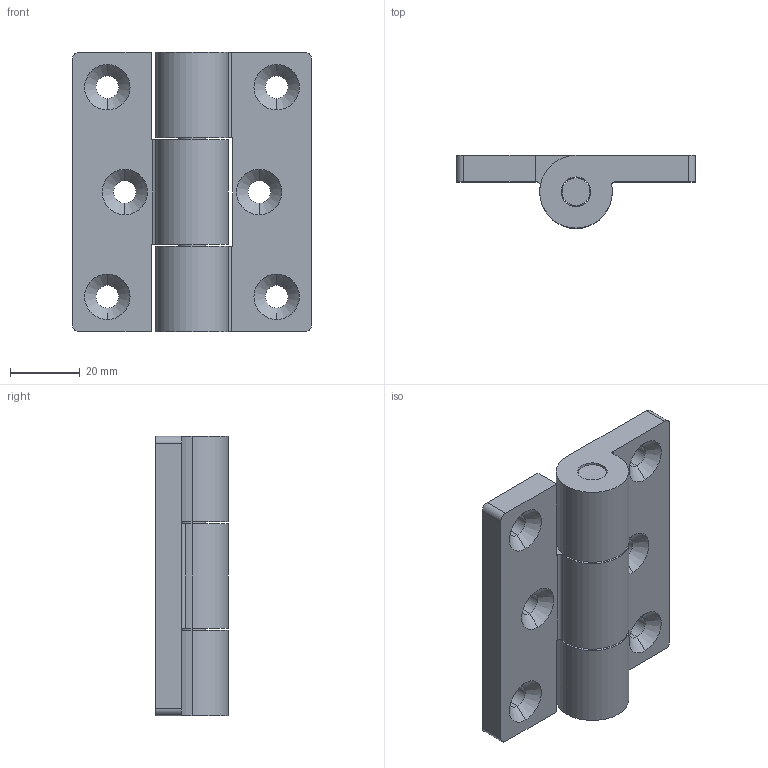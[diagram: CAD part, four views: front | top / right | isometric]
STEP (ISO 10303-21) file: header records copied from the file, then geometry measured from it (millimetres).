
FILE_DESCRIPTION (( 'STEP AP203' ), '1' );
FILE_NAME ('XG02-042-1.STEP', '2023-12-07T08:51:25', ( '' ), ( '' ), 'SwSTEP 2.0', 'SolidWorks 2020', '' );
FILE_SCHEMA (( 'CONFIG_CONTROL_DESIGN' ));
Length unit declared in the file: millimetre
Products named in the file (4): HL022; HL022 - a; XG02-042-1; HL022 - C
Assembly tree (3 placements, depth 2):
  XG02-042-1
    HL022
    HL022 - a
    HL022 - C
Bounding box: 68.5 x 20.8 x 80 mm (x, y, z)
Volume: 53640.2 mm3; surface area: 21243.2 mm2
Topology: 3 solids, 3 shells, 70 faces, 180 edges, 116 vertices
Faces by surface type: cylinder 39, plane 19, cone 12
Entity records: 2608 total; most frequent: DIRECTION 422, CARTESIAN_POINT 372, ORIENTED_EDGE 360, EDGE_CURVE 180, AXIS2_PLACEMENT_3D 166, VERTEX_POINT 116, LINE 90, CIRCLE 90
